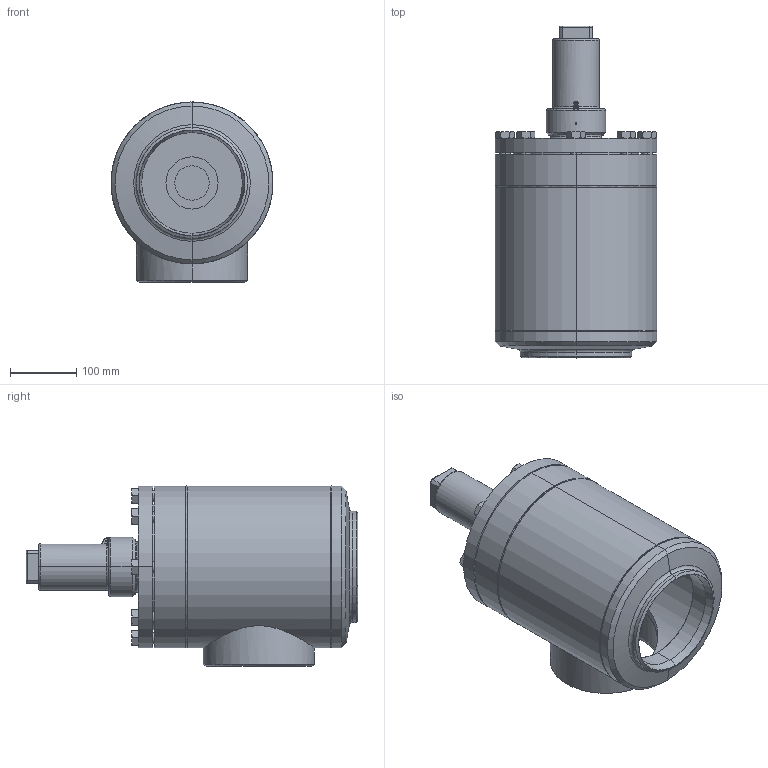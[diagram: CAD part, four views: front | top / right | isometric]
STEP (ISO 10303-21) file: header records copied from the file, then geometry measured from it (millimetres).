
FILE_DESCRIPTION (( 'STEP AP214' ), '1' );
FILE_NAME ('AVR26400D21A5A3AA00_DN150_R1_PS40.STEP', '2010-06-16T10:34:48', ( 'Eckhard Grams' ), ( 'AWP Kälte Klima Armaturen GmbH' ), 'SwSTEP 2.0', 'SolidWorks 2002296', '' );
FILE_SCHEMA (( 'AUTOMOTIVE_DESIGN' ));
Length unit declared in the file: millimetre
Products named in the file (12): AVR26400D21A5A3AA00_DN150_R1_PS40; Geh,kpl 16300E21-5030AA1_DN150_R1_Standard; Kopfstück16300-DN150_Standard; Boden16300-DN150_Standard; Rohrstutzen-A16300a-21_R1_Standard; bead Geh,kpl 16400-21-2_Standard; bead Geh,kpl 16400-21-1_Standard; Gehäuse16300-DN150_Standard; AVR26300E21_Deck+Schr-DN150_Standard; Deckel26300E21-DN150_Standard; Sechskantschraube-DIN933_M16x 45; Kappe 16402-21_DN125-150 (M76x3)_Standard
Assembly tree (18 placements, depth 3):
  AVR26400D21A5A3AA00_DN150_R1_PS40
    AVR26300E21_Deck+Schr-DN150_Standard
      Sechskantschraube-DIN933_M16x 45  x8
      Deckel26300E21-DN150_Standard
    Geh,kpl 16300E21-5030AA1_DN150_R1_Standard
      Boden16300-DN150_Standard
      Gehäuse16300-DN150_Standard
      Kopfstück16300-DN150_Standard
      Rohrstutzen-A16300a-21_R1_Standard
      bead Geh,kpl 16400-21-2_Standard
      bead Geh,kpl 16400-21-1_Standard
    Kappe 16402-21_DN125-150 (M76x3)_Standard
Bounding box: 245.26 x 502.5 x 272.64 mm (x, y, z)
Volume: 5930833 mm3; surface area: 943548 mm2
Topology: 16 solids, 16 shells, 381 faces, 817 edges, 485 vertices
Faces by surface type: cone 130, plane 112, cylinder 102, bspline 19, torus 18
Entity records: 12766 total; most frequent: CARTESIAN_POINT 7419, DIRECTION 1005, ORIENTED_EDGE 906, EDGE_CURVE 453, AXIS2_PLACEMENT_3D 436, VERTEX_POINT 275, EDGE_LOOP 250, CIRCLE 226
